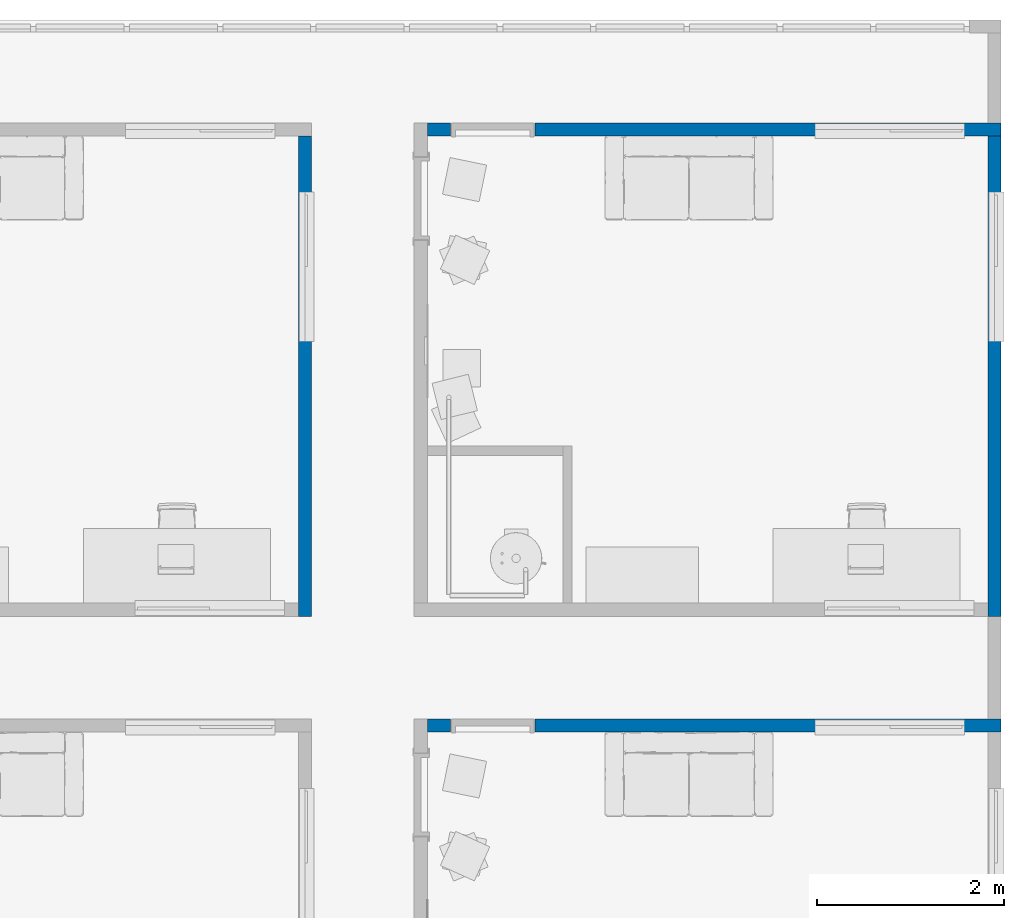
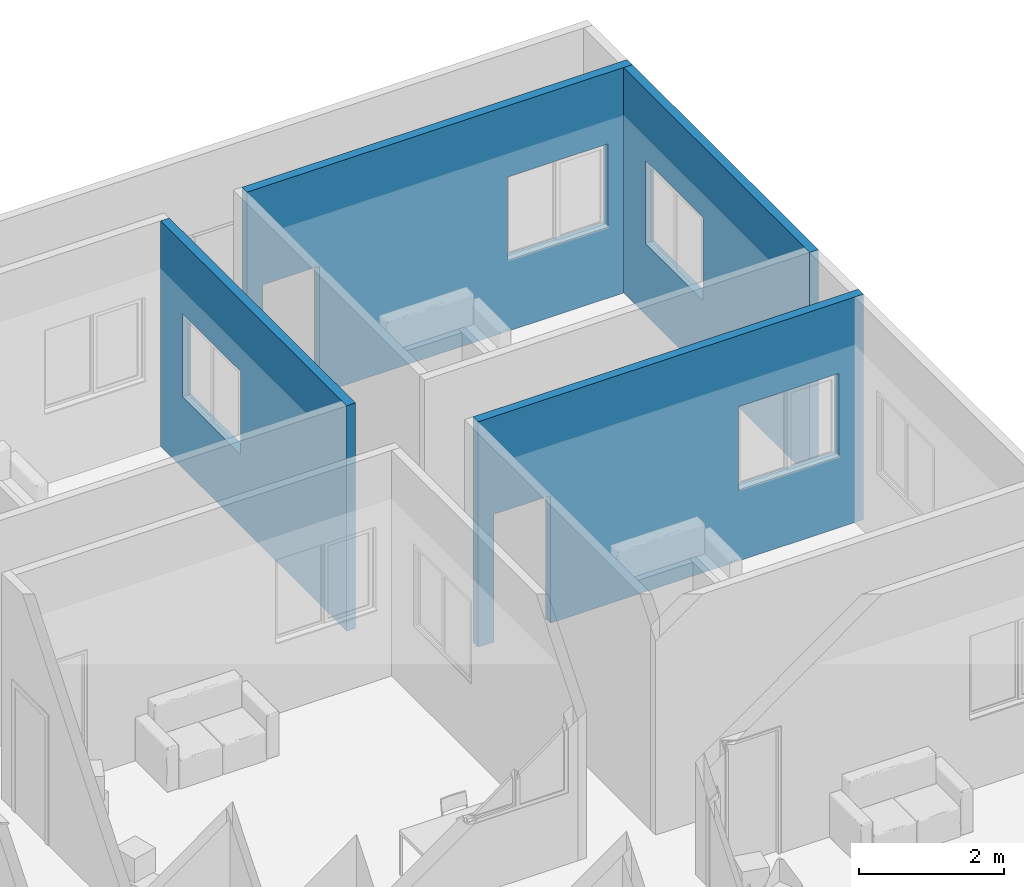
# One storey, part 11 of 69: 4 walls, 6 openings.
"""IFC4 building model written with IfcOpenShell, lengths in centimetres."""

from ifc_helpers import new_model, entity, si_unit, converted_unit, derived_unit, direction, frame, origin, place, context, subcontext, project, spatial, indexed_curve, outline, extrude, polygons, material, type_object, element, save


model = new_model("IFC4")

# Units and contexts
model_context = context("Model", 3, precision=0.001, world=origin(), true_north=direction((6.123233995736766e-17, 1.0)))
body_context = subcontext(model_context, "Body", "Model", "MODEL_VIEW")
ifc_project = project(units=[si_unit("LENGTHUNIT", "METRE", prefix="CENTI"), si_unit("AREAUNIT", "SQUARE_METRE"), si_unit("VOLUMEUNIT", "CUBIC_METRE"), derived_unit("THERMALTRANSMITTANCEUNIT", [(si_unit("MASSUNIT", "GRAM", prefix="KILO"), 1), (si_unit("THERMODYNAMICTEMPERATUREUNIT", "KELVIN"), -1), (si_unit("TIMEUNIT", "SECOND"), -3)]), converted_unit("PLANEANGLEUNIT", "DEGREE", entity("IfcPlaneAngleMeasure", 0.017453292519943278), si_unit("PLANEANGLEUNIT", "RADIAN"), dimensions=[0, 0, 0, 0, 0, 0, 0]), derived_unit("MASSDENSITYUNIT", [(si_unit("MASSUNIT", "GRAM", prefix="KILO"), 1), (si_unit("LENGTHUNIT", "METRE"), -3)]), derived_unit("VAPORPERMEABILITYUNIT", [(si_unit("LENGTHUNIT", "METRE"), -1), (si_unit("TIMEUNIT", "SECOND"), 1)]), derived_unit("USERDEFINED", [(si_unit("MASSUNIT", "GRAM", prefix="KILO"), 1), (si_unit("TIMEUNIT", "SECOND"), -3), (si_unit("LENGTHUNIT", "METRE"), 3), (si_unit("ELECTRICCURRENTUNIT", "AMPERE"), -2)]), derived_unit("SPECIFICHEATCAPACITYUNIT", [(si_unit("THERMODYNAMICTEMPERATUREUNIT", "KELVIN"), -1), (si_unit("LENGTHUNIT", "METRE"), 2), (si_unit("TIMEUNIT", "SECOND"), -2)]), derived_unit("THERMALCONDUCTANCEUNIT", [(si_unit("MASSUNIT", "GRAM", prefix="KILO"), 1), (si_unit("THERMODYNAMICTEMPERATUREUNIT", "KELVIN"), -1), (si_unit("TIMEUNIT", "SECOND"), -3), (si_unit("LENGTHUNIT", "METRE"), 1)]), si_unit("PRESSUREUNIT", "PASCAL"), derived_unit("MODULUSOFELASTICITYUNIT", [(si_unit("MASSUNIT", "GRAM", prefix="KILO"), 1), (si_unit("LENGTHUNIT", "METRE"), -1), (si_unit("TIMEUNIT", "SECOND"), -2)]), derived_unit("THERMALEXPANSIONCOEFFICIENTUNIT", [(si_unit("THERMODYNAMICTEMPERATUREUNIT", "KELVIN"), -1)])], contexts=[model_context])

# Site, building, storey
site_placement = place(None, origin())
site = spatial("IfcSite", under=ifc_project, at=site_placement, Name="Default", CompositionType="ELEMENT")
building_placement = place(site_placement, origin())
building = spatial("IfcBuilding", under=site, at=building_placement, Name="IDS Escape Game Building", CompositionType="ELEMENT")
storey_placement = place(building_placement, origin())
storey = spatial("IfcBuildingStorey", under=building, at=storey_placement, Name="00_Ground Floor", CompositionType="ELEMENT", Elevation=0.0)

# Wall, openings
ifc_material = material(Name="ARC_FME.g2_Fg2 Masonry_00_gen_BERSnl", Category="g - klei")
wall_type = type_object("IfcWallType", Name="Basic Wall:ARC_22.10_WA_LB_SB14_gen_BERSnl", PredefinedType="STANDARD")
wall_1_placement = place(storey_placement, frame((5049.0, 2434.0, 0.0), z_axis=(0.0, 0.0, 1.0), x_axis=(-1.0, 0.0, 0.0)))
wall_1 = element("IfcWall", 1, at=wall_1_placement, inside=storey, type_object=wall_type, material=ifc_material, Name="Basic Wall:ARC_22.10_WA_LB_SB14_gen_BERSnl", ObjectType="Basic Wall:ARC_22.10_WA_LB_SB14_gen_BERSnl", PredefinedType="NOTDEFINED", context=body_context, shape_type="Tessellation", body=[
    polygons([(38.999999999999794, -7.000000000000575, 120.0), (38.999999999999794, -7.000000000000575, 260.0000000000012), (198.9999999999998, -7.000000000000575, 260.0000000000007), (198.9999999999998, -7.000000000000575, 120.00000000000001), (194.00000000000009, -6.999999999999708, 120.00000000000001), (43.999999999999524, -6.999999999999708, 120.00000000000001), (613.9999999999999, -6.999999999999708, 380.0), (14.000000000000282, -6.999999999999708, 380.0), (0.0, -6.999999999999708, 380.0), (0.0, -6.999999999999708, 0.0), (14.000000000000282, -6.999999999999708, 0.0), (498.99999999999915, -6.999999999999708, 0.0), (498.99999999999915, -6.999999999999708, 215.00000000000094), (588.9999999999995, -6.999999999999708, 215.00000000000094), (588.9999999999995, -6.999999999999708, 0.0), (613.9999999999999, -6.999999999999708, 0.0), (0.0, 7.000000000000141, 380.0), (14.000000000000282, 7.000000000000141, 380.0), (613.9999999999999, 7.000000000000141, 380.0), (613.9999999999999, 7.000000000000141, 0.0), (588.9999999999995, 7.000000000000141, 0.0), (588.9999999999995, 7.000000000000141, 215.00000000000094), (498.9999999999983, 7.000000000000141, 215.00000000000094), (498.99999999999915, 7.000000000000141, 0.0), (14.000000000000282, 7.000000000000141, 0.0), (0.0, 7.000000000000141, 0.0), (38.999999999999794, 7.000000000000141, 260.00000000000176), (38.999999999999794, 7.000000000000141, 120.0), (198.9999999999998, 7.000000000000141, 120.00000000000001), (198.9999999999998, 7.000000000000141, 260.0000000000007)], [[[7, 8, 9, 10, 11, 12, 13, 14, 15, 16], [1, 2, 3, 4, 5, 6]], [[17, 18, 19, 20, 21, 22, 23, 24, 25, 26], [27, 28, 29, 30]], [[12, 11, 10, 26, 25, 24]], [[9, 8, 7, 19, 18, 17]], [[14, 22, 21, 15]], [[23, 13, 12, 24]], [[22, 14, 13, 23]], [[1, 28, 27, 2]], [[3, 30, 29, 4]], [[30, 3, 2, 27]], [[28, 1, 6, 5, 4, 29]], [[10, 9, 17, 26]], [[7, 16, 20, 19]], [[16, 15, 21, 20]]], closed=True),
])
opening_1_placement = place(wall_1_placement, frame((5049.0, 2434.0, 0.0), z_axis=(0.0, 0.0, 1.0), x_axis=(-1.0, 0.0, 0.0)))
element("IfcOpeningElement", 2, at=opening_1_placement, cuts=wall_1, Name="Basic Wall:ARC_22.10_WA_LB_SB14_gen_BERSnl", PredefinedType="OPENING", context=body_context, shape_type="SweptSolid", body=[
    extrude(outline(indexed_curve([(-45.00000000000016, -137.49999999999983), (45.00000000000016, -137.49999999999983), (45.00000000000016, 137.49999999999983), (-45.00000000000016, 137.49999999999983), (-45.00000000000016, -137.49999999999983)], self_intersect=False)), frame((4505.0, 2524.0, 77.50000000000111), z_axis=(0.0, -1.0, 0.0), x_axis=(1.0, 0.0, 0.0)), (0.0, 0.0, 1.0), 166.00000000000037),
])
opening_2_placement = place(wall_1_placement, frame((5049.0, 2434.0, 120.0), z_axis=(0.0, 0.0, 1.0), x_axis=(-1.0, 0.0, 0.0)))
element("IfcOpeningElement", 3, at=opening_2_placement, cuts=wall_1, Name="Basic Wall:ARC_22.10_WA_LB_SB14_gen_BERSnl", PredefinedType="OPENING", context=body_context, shape_type="Tessellation", body=[
    polygons([(5010.0, 2441.0000000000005, 0.0), (5010.0, 2441.0000000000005, -1.0), (5010.0, 2446.0000000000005, -1.0), (5010.0, 2446.0000000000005, 0.0), (4850.0, 2441.0000000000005, 0.0), (4850.0, 2446.0000000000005, 0.0), (4850.0, 2446.0000000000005, -1.0), (4850.0, 2441.0000000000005, -1.0), (5005.0, 2441.0000000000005, 0.0), (4855.0, 2441.0000000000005, 0.0), (4855.0, 2446.0, 0.0), (4855.000000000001, 2446.0000000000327, 134.9999999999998), (5005.0, 2446.0000000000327, 134.9999999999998), (5005.0, 2446.0, 0.0), (5010.0, 2421.9631748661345, 0.0), (5010.0, 2441.0000000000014, 0.0), (5010.0, 2441.0000000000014, 140.00000000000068), (5010.0, 2421.9631748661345, 140.00000000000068), (4850.0, 2421.9631748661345, 140.0000000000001), (4850.0, 2441.0000000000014, 140.0000000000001), (4850.0, 2441.0000000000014, 0.0), (4850.0, 2421.9631748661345, 0.0), (5005.0, 2441.0000000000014, 134.9999999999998), (4855.000000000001, 2441.0000000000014, 134.9999999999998)], [[[1, 2, 3, 4]], [[5, 6, 7, 8]], [[1, 9, 10, 5, 8, 2]], [[2, 8, 7, 3]], [[3, 7, 6, 11, 12, 13, 14, 4]], [[4, 14, 9, 1]], [[15, 16, 17, 18]], [[19, 20, 21, 22]], [[18, 17, 20, 19]], [[18, 19, 22, 15]], [[17, 16, 9, 23, 24, 10, 21, 20]], [[22, 21, 10, 9, 16, 15]], [[11, 10, 24, 12]], [[13, 23, 9, 14]], [[12, 24, 23, 13]], [[5, 10, 11, 6]]], closed=True),
])

# Wall, opening
wall_2_placement = place(storey_placement, frame((4304.0, 2551.0, 0.0), z_axis=(0.0, 0.0, 1.0), x_axis=(0.0, 1.0, 0.0)))
wall_2 = element("IfcWall", 4, at=wall_2_placement, inside=storey, type_object=wall_type, material=ifc_material, Name="Basic Wall:ARC_22.10_WA_LB_SB14_gen_BERSnl", ObjectType="Basic Wall:ARC_22.10_WA_LB_SB14_gen_BERSnl", PredefinedType="NOTDEFINED", context=body_context, shape_type="Tessellation", body=[
    polygons([(0.0, -7.000000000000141, 0.0), (513.9999999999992, -7.000000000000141, 0.0), (513.9999999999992, -7.000000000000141, 380.0), (0.0, -7.000000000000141, 380.0), (454.0000000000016, -7.000000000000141, 260.00000000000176), (454.0000000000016, -7.000000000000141, 120.0), (294.0000000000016, -7.000000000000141, 120.00000000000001), (294.0000000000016, -7.000000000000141, 260.00000000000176), (454.0000000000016, 7.000000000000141, 120.0), (454.0000000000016, 7.000000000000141, 260.0000000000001), (294.0000000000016, 7.000000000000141, 260.0000000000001), (294.0000000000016, 7.000000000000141, 120.00000000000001), (0.0, 7.000000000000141, 0.0), (0.0, 7.000000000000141, 380.0), (13.999999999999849, 7.000000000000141, 380.0), (513.9999999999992, 7.000000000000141, 380.0), (513.9999999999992, 7.000000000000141, 0.0), (13.999999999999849, 7.000000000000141, 0.0)], [[[1, 2, 3, 4], [5, 6, 7, 8]], [[13, 14, 15, 16, 17, 18], [9, 10, 11, 12]], [[2, 1, 13, 18, 17]], [[4, 3, 16, 15, 14]], [[10, 9, 6, 5]], [[7, 12, 11, 8]], [[10, 5, 8, 11]], [[12, 7, 6, 9]], [[1, 4, 14, 13]], [[3, 2, 17, 16]]], closed=True),
])
opening_3_placement = place(wall_2_placement, frame((-2551.0, 4304.0, 120.0), z_axis=(0.0, 0.0, 1.0), x_axis=(0.0, -1.0, 0.0)))
element("IfcOpeningElement", 5, at=opening_3_placement, cuts=wall_2, Name="Basic Wall:ARC_22.10_WA_LB_SB14_gen_BERSnl", PredefinedType="OPENING", context=body_context, shape_type="Tessellation", body=[
    polygons([(4297.0, 3005.000000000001, 0.0), (4297.0, 3005.000000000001, -1.0), (4292.000000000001, 3005.000000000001, -1.0), (4292.000000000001, 3005.000000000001, 0.0), (4297.0, 2845.000000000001, 0.0), (4292.000000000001, 2845.000000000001, 0.0), (4292.000000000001, 2845.000000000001, -1.0), (4297.0, 2845.000000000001, -1.0), (4297.0, 3000.000000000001, 0.0), (4297.0, 2850.000000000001, 0.0), (4292.000000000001, 2850.0000000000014, 0.0), (4291.999999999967, 2850.0000000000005, 134.9999999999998), (4291.999999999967, 3000.0000000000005, 134.9999999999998), (4292.000000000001, 3000.000000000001, 0.0), (4316.036825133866, 3005.000000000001, 0.0), (4296.999999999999, 3005.000000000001, 0.0), (4296.999999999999, 3005.000000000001, 140.00000000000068), (4316.036825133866, 3005.000000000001, 140.00000000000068), (4316.036825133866, 2845.000000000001, 140.0000000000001), (4296.999999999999, 2845.000000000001, 140.0000000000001), (4296.999999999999, 2845.000000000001, 0.0), (4316.036825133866, 2845.000000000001, 0.0), (4296.999999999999, 3000.0000000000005, 134.9999999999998), (4296.999999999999, 2850.0000000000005, 134.9999999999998)], [[[1, 2, 3, 4]], [[5, 6, 7, 8]], [[1, 9, 10, 5, 8, 2]], [[2, 8, 7, 3]], [[3, 7, 6, 11, 12, 13, 14, 4]], [[4, 14, 9, 1]], [[15, 16, 17, 18]], [[19, 20, 21, 22]], [[18, 17, 20, 19]], [[18, 19, 22, 15]], [[17, 16, 9, 23, 24, 10, 21, 20]], [[22, 21, 10, 9, 16, 15]], [[11, 10, 24, 12]], [[13, 23, 9, 14]], [[12, 24, 23, 13]], [[5, 10, 11, 6]]], closed=True),
])

# Wall, openings
wall_3_placement = place(storey_placement, frame((5049.0, 3072.0, 0.0), z_axis=(0.0, 0.0, 1.0), x_axis=(-1.0, 0.0, 0.0)))
wall_3 = element("IfcWall", 6, at=wall_3_placement, inside=storey, type_object=wall_type, material=ifc_material, Name="Basic Wall:ARC_22.10_WA_LB_SB14_gen_BERSnl", ObjectType="Basic Wall:ARC_22.10_WA_LB_SB14_gen_BERSnl", PredefinedType="NOTDEFINED", context=body_context, shape_type="Tessellation", body=[
    polygons([(38.999999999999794, -7.000000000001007, 120.0), (38.999999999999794, -7.000000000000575, 260.0000000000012), (198.9999999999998, -7.000000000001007, 260.0000000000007), (198.9999999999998, -7.000000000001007, 120.00000000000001), (194.00000000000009, -6.999999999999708, 120.00000000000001), (43.999999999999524, -6.999999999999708, 120.00000000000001), (613.9999999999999, -6.999999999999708, 380.0), (14.000000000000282, -6.999999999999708, 380.0), (0.0, -6.999999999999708, 380.0), (0.0, -6.999999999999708, 0.0), (14.000000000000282, -6.999999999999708, 0.0), (498.99999999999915, -6.999999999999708, 0.0), (498.99999999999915, -6.999999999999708, 215.00000000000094), (588.9999999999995, -6.999999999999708, 215.00000000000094), (588.9999999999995, -6.999999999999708, 0.0), (613.9999999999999, -6.999999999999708, 0.0), (0.0, 7.000000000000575, 380.0), (14.000000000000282, 7.000000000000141, 380.0), (613.9999999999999, 7.000000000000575, 380.0), (613.9999999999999, 7.000000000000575, 0.0), (588.9999999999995, 7.000000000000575, 0.0), (588.9999999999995, 7.000000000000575, 215.00000000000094), (498.9999999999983, 7.000000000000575, 215.00000000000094), (498.99999999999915, 7.000000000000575, 0.0), (14.000000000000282, 7.000000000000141, 0.0), (0.0, 7.000000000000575, 0.0), (38.999999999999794, 7.000000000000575, 260.00000000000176), (38.999999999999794, 7.000000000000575, 120.0), (198.9999999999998, 7.000000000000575, 120.00000000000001), (198.9999999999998, 7.000000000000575, 260.0000000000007)], [[[7, 8, 9, 10, 11, 12, 13, 14, 15, 16], [1, 2, 3, 4, 5, 6]], [[17, 18, 19, 20, 21, 22, 23, 24, 25, 26], [27, 28, 29, 30]], [[12, 11, 10, 26, 25, 24]], [[9, 8, 7, 19, 18, 17]], [[14, 22, 21, 15]], [[23, 13, 12, 24]], [[22, 14, 13, 23]], [[1, 28, 27, 2]], [[3, 30, 29, 4]], [[30, 3, 2, 27]], [[28, 1, 6, 5, 4, 29]], [[10, 9, 17, 26]], [[7, 16, 20, 19]], [[16, 15, 21, 20]]], closed=True),
])
opening_4_placement = place(wall_3_placement, frame((5049.0, 3072.0, 0.0), z_axis=(0.0, 0.0, 1.0), x_axis=(-1.0, 0.0, 0.0)))
element("IfcOpeningElement", 7, at=opening_4_placement, cuts=wall_3, Name="Basic Wall:ARC_22.10_WA_LB_SB14_gen_BERSnl", PredefinedType="OPENING", context=body_context, shape_type="SweptSolid", body=[
    extrude(outline(indexed_curve([(-45.00000000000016, -137.49999999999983), (45.00000000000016, -137.49999999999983), (45.00000000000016, 137.49999999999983), (-45.00000000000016, 137.49999999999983), (-45.00000000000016, -137.49999999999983)], self_intersect=False)), frame((4505.0, 3162.0, 77.50000000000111), z_axis=(0.0, -1.0, 0.0), x_axis=(1.0, 0.0, 0.0)), (0.0, 0.0, 1.0), 166.00000000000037),
])
opening_5_placement = place(wall_3_placement, frame((5049.0, 3072.0, 120.0), z_axis=(0.0, 0.0, 1.0), x_axis=(-1.0, 0.0, 0.0)))
element("IfcOpeningElement", 8, at=opening_5_placement, cuts=wall_3, Name="Basic Wall:ARC_22.10_WA_LB_SB14_gen_BERSnl", PredefinedType="OPENING", context=body_context, shape_type="Tessellation", body=[
    polygons([(5010.0, 3079.0000000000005, 0.0), (5010.0, 3079.0000000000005, -1.0), (5010.0, 3084.0000000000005, -1.0), (5010.0, 3084.0000000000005, 0.0), (4850.0, 3079.0000000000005, 0.0), (4850.0, 3084.0000000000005, 0.0), (4850.0, 3084.0000000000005, -1.0), (4850.0, 3079.0000000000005, -1.0), (5005.0, 3079.000000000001, 0.0), (4855.0, 3079.000000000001, 0.0), (4855.0, 3084.0, 0.0), (4855.000000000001, 3084.000000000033, 134.9999999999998), (5005.0, 3084.000000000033, 134.9999999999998), (5005.0, 3084.0, 0.0), (5010.0, 3059.9631748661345, 0.0), (5010.0, 3079.0000000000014, 0.0), (5010.0, 3079.0000000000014, 140.00000000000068), (5010.0, 3059.9631748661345, 140.00000000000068), (4850.0, 3059.9631748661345, 140.0000000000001), (4850.0, 3079.0000000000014, 140.0000000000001), (4850.0, 3079.000000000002, 0.0), (4850.0, 3059.9631748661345, 0.0), (5005.0, 3079.0000000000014, 134.9999999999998), (4855.000000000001, 3079.0000000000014, 134.9999999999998)], [[[1, 2, 3, 4]], [[5, 6, 7, 8]], [[1, 9, 10, 5, 8, 2]], [[2, 8, 7, 3]], [[3, 7, 6, 11, 12, 13, 14, 4]], [[4, 14, 9, 1]], [[15, 16, 17, 18]], [[19, 20, 21, 22]], [[18, 17, 20, 19]], [[18, 19, 22, 15]], [[17, 16, 9, 23, 24, 10, 21, 20]], [[22, 21, 10, 9, 16, 15]], [[11, 10, 24, 12]], [[13, 23, 9, 14]], [[12, 24, 23, 13]], [[5, 10, 11, 6]]], closed=True),
])

# Wall, opening
wall_4_placement = place(storey_placement, frame((5042.0, 2551.0, 0.0), z_axis=(0.0, 0.0, 1.0), x_axis=(0.0, 1.0, 0.0)))
wall_4 = element("IfcWall", 9, at=wall_4_placement, inside=storey, type_object=wall_type, material=ifc_material, Name="Basic Wall:ARC_22.10_WA_LB_SB14_gen_BERSnl", ObjectType="Basic Wall:ARC_22.10_WA_LB_SB14_gen_BERSnl", PredefinedType="NOTDEFINED", context=body_context, shape_type="Tessellation", body=[
    polygons([(0.0, -7.000000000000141, 0.0), (513.9999999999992, -7.000000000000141, 0.0), (513.9999999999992, -7.000000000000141, 380.0), (0.0, -7.000000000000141, 380.0), (454.0000000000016, -7.000000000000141, 260.00000000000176), (454.0000000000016, -7.000000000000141, 120.0), (294.0000000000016, -7.000000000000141, 120.00000000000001), (294.0000000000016, -7.000000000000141, 260.00000000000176), (454.0000000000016, 7.000000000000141, 120.0), (454.0000000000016, 7.000000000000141, 260.0000000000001), (294.0000000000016, 7.000000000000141, 260.0000000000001), (294.0000000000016, 7.000000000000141, 120.00000000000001), (0.0, 7.000000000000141, 0.0), (0.0, 7.000000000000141, 380.0), (13.999999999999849, 7.000000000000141, 380.0), (513.9999999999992, 7.000000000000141, 380.0), (513.9999999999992, 7.000000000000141, 0.0), (13.999999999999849, 7.000000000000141, 0.0)], [[[1, 2, 3, 4], [5, 6, 7, 8]], [[13, 14, 15, 16, 17, 18], [9, 10, 11, 12]], [[2, 1, 13, 18, 17]], [[4, 3, 16, 15, 14]], [[10, 9, 6, 5]], [[7, 12, 11, 8]], [[10, 5, 8, 11]], [[12, 7, 6, 9]], [[1, 4, 14, 13]], [[3, 2, 17, 16]]], closed=True),
])
opening_6_placement = place(wall_4_placement, frame((-2551.0, 5042.0, 120.0), z_axis=(0.0, 0.0, 1.0), x_axis=(0.0, -1.0, 0.0)))
element("IfcOpeningElement", 10, at=opening_6_placement, cuts=wall_4, Name="Basic Wall:ARC_22.10_WA_LB_SB14_gen_BERSnl", PredefinedType="OPENING", context=body_context, shape_type="Tessellation", body=[
    polygons([(5035.0, 3005.000000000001, 0.0), (5035.0, 3005.000000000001, -1.0), (5030.0, 3005.000000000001, -1.0), (5030.0, 3005.000000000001, 0.0), (5035.0, 2845.000000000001, 0.0), (5030.0, 2845.000000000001, 0.0), (5030.0, 2845.000000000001, -1.0), (5035.0, 2845.000000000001, -1.0), (5034.999999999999, 3000.000000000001, 0.0), (5035.0, 2850.000000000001, 0.0), (5030.0, 2850.0000000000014, 0.0), (5029.999999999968, 2850.0000000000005, 134.9999999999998), (5029.999999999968, 3000.0000000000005, 134.9999999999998), (5030.0, 3000.000000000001, 0.0), (5054.036825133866, 3005.000000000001, 0.0), (5034.999999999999, 3005.000000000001, 0.0), (5034.999999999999, 3005.000000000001, 140.00000000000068), (5054.036825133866, 3005.000000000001, 140.00000000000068), (5054.036825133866, 2845.000000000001, 140.0000000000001), (5034.999999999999, 2845.000000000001, 140.0000000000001), (5034.999999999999, 2845.000000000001, 0.0), (5054.036825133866, 2845.000000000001, 0.0), (5034.999999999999, 3000.0000000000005, 134.9999999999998), (5034.999999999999, 2850.0000000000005, 134.9999999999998)], [[[1, 2, 3, 4]], [[5, 6, 7, 8]], [[1, 9, 10, 5, 8, 2]], [[2, 8, 7, 3]], [[3, 7, 6, 11, 12, 13, 14, 4]], [[4, 14, 9, 1]], [[15, 16, 17, 18]], [[19, 20, 21, 22]], [[18, 17, 20, 19]], [[18, 19, 22, 15]], [[17, 16, 9, 23, 24, 10, 21, 20]], [[22, 21, 10, 9, 16, 15]], [[11, 10, 24, 12]], [[13, 23, 9, 14]], [[12, 24, 23, 13]], [[5, 10, 11, 6]]], closed=True),
])

save(model, "model.ifc")
